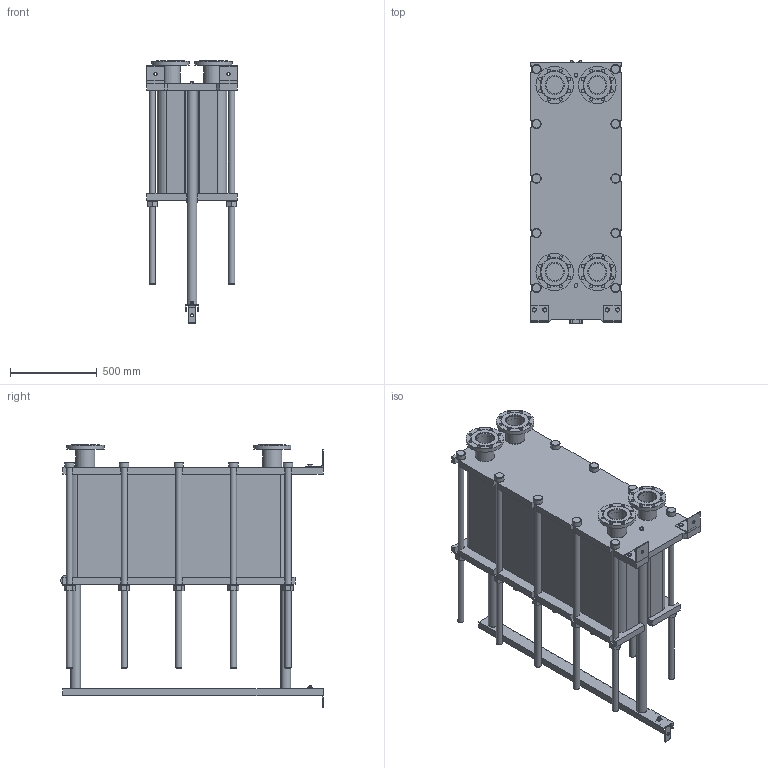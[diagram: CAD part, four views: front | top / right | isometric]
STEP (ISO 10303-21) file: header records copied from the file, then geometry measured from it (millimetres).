
FILE_DESCRIPTION(/* description */ (''),/* implementation_level */ '2;1');
FILE_NAME(/* name */ 'C:\Users\zhuro\Desktop\ENCO\TO\ЭН-04\ЭН-0,5-04-172-1.stp',/* time_stamp */ '2022-06-06T11:00:18+03:00',/* author */ ('zhuro'),/* organization */ (''),/* preprocessor_version */ 'ST-DEVELOPER v18.1',/* originating_system */ 'Autodesk Inventor 2022',/* authorisation */ '');
FILE_SCHEMA (('AUTOMOTIVE_DESIGN { 1 0 10303 214 3 1 1 }'));
Length unit declared in the file: millimetre
Products named in the file (1): ЭН-0,5-04-172-1
Bounding box: 520 x 1510 x 1511 mm (x, y, z)
Volume: 371636974.4 mm3; surface area: 9938548.8 mm2
Topology: 45 solids, 45 shells, 668 faces, 1611 edges, 1048 vertices
Faces by surface type: plane 457, cylinder 166, cone 39, torus 6
Full cylindrical faces by diameter (mm): 8 x4, 10 x2, 16 x8, 18 x35, 36 x25, 40 x2, 42 x1, 45 x4, 54 x10, 57 x2, 60 x10, 68 x2, 100 x4, 110 x8, 215 x4
Entity records: 23607 total; most frequent: CARTESIAN_POINT 7348, DIRECTION 3371, ORIENTED_EDGE 3142, EDGE_CURVE 1571, AXIS2_PLACEMENT_3D 1199, VERTEX_POINT 1044, LINE 973, VECTOR 973
